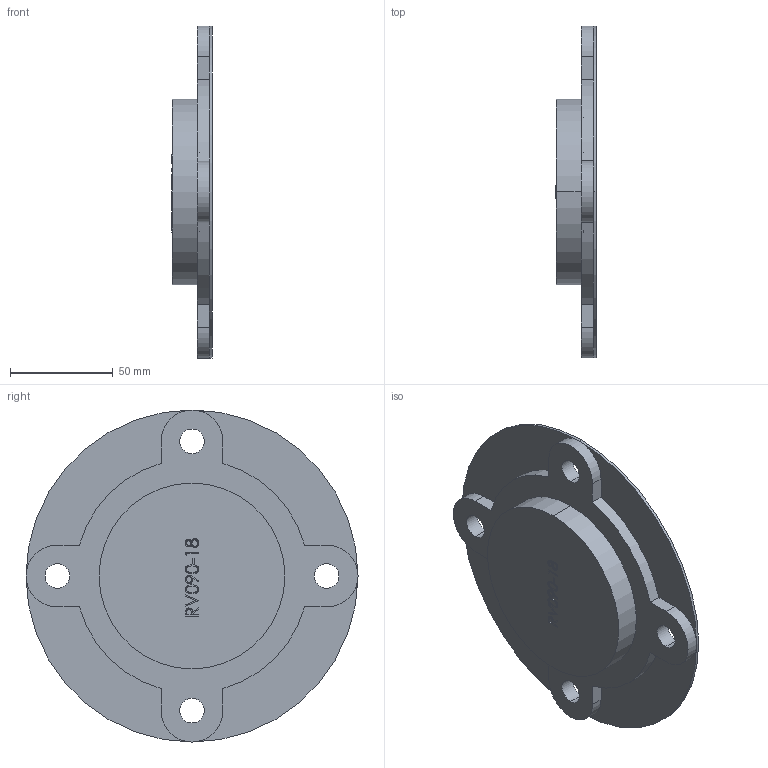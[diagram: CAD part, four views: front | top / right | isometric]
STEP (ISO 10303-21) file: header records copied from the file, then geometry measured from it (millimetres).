
FILE_DESCRIPTION (( 'STEP AP203' ), '1' );
FILE_NAME ('CALM90-OPC.STEP', '2014-09-02T03:46:58', ( 'user' ), ( '' ), 'SwSTEP 2.0', 'SolidWorks 2012', '' );
FILE_SCHEMA (( 'CONFIG_CONTROL_DESIGN' ));
Length unit declared in the file: millimetre
Products named in the file (1): CALM90-OPC
Bounding box: 19.7 x 161.5 x 161.5 mm (x, y, z)
Volume: 43680.2 mm3; surface area: 53871.9 mm2
Topology: 1 solids, 1 shells, 136 faces, 344 edges, 227 vertices
Faces by surface type: plane 62, bspline 49, cylinder 25
Entity records: 7302 total; most frequent: CARTESIAN_POINT 4213, ORIENTED_EDGE 688, DIRECTION 477, EDGE_CURVE 344, VERTEX_POINT 227, LINE 191, VECTOR 191, EDGE_LOOP 161
